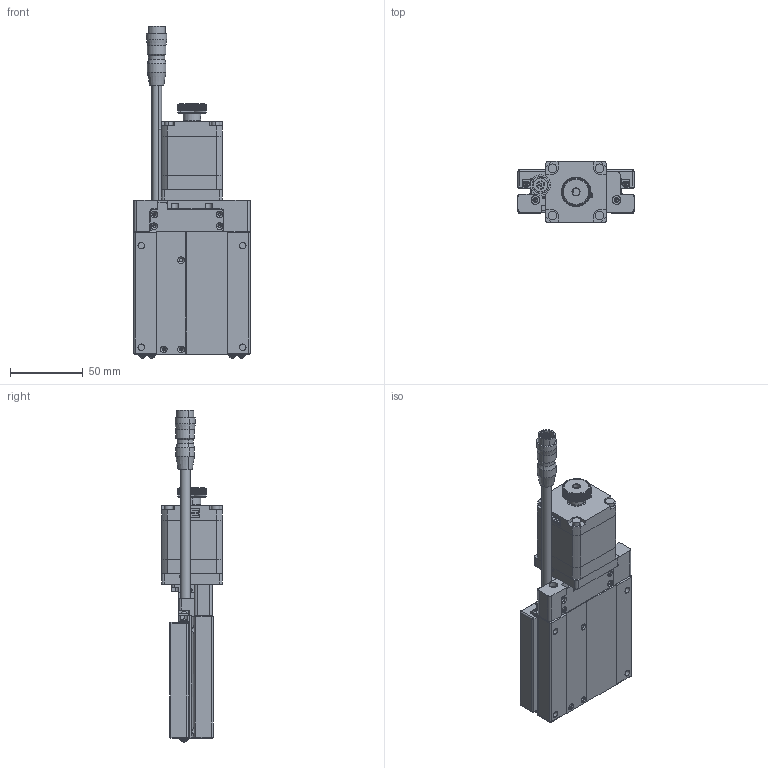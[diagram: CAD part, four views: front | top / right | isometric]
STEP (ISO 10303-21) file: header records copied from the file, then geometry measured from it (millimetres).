
FILE_DESCRIPTION (( 'STEP AP214' ), '1' );
FILE_NAME ('TXS8020B-L2-M42L.STEP', '2025-01-03T09:12:55', ( '' ), ( '' ), 'SwSTEP 2.0', 'SolidWorks 2020', '' );
FILE_SCHEMA (( 'AUTOMOTIVE_DESIGN' ));
Length unit declared in the file: millimetre
Products named in the file (1): TXS8020B-L2-M42L
Bounding box: 80 x 42 x 228.92 mm (x, y, z)
Volume: 263271.6 mm3; surface area: 93263.4 mm2
Topology: 35 solids, 35 shells, 1674 faces, 4356 edges, 2728 vertices
Faces by surface type: plane 659, cylinder 566, cone 215, torus 188, sphere 32, bspline 14
Entity records: 56237 total; most frequent: CARTESIAN_POINT 15367, ORIENTED_EDGE 8500, DIRECTION 8463, EDGE_CURVE 4250, AXIS2_PLACEMENT_3D 3334, VERTEX_POINT 2728, EDGE_LOOP 1870, LINE 1795
